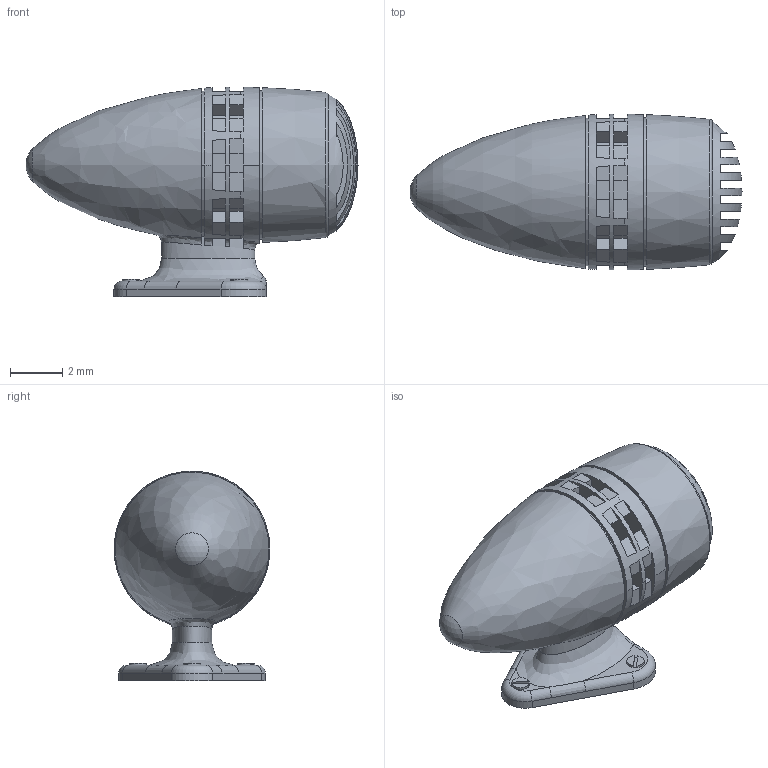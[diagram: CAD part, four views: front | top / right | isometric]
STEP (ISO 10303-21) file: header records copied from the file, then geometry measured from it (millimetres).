
FILE_DESCRIPTION(/* description */ ('','CAx-IF Rec.Pracs.---Representation and Presentation of Product Manufacturing Information (PMI)---4.0---2014-10-13'),/* implementation_level */ '2;1');
FILE_NAME(/* name */ 'Higgins 20th Sirenco type 93 v1.step',/* time_stamp */ '2025-02-16T13:30:43+11:00',/* author */ (''),/* organization */ (''),/* preprocessor_version */ 'ST-DEVELOPER v20',/* originating_system */ 'Autodesk Translation Framework v13.20.0.188',/* authorisation */ '');
FILE_SCHEMA (('AP242_MANAGED_MODEL_BASED_3D_ENGINEERING_MIM_LF { 1 0 10303 442 1 1 4 }'));
Length unit declared in the file: millimetre
Products named in the file (1): Higgins Sirenco type 93
Bounding box: 12.69 x 5.96 x 8.02 mm (x, y, z)
Volume: 258.2 mm3; surface area: 335.3 mm2
Topology: 1 solids, 3 shells, 211 faces, 619 edges, 427 vertices
Faces by surface type: plane 172, bspline 23, cylinder 12, torus 3, sphere 1
Full cylindrical faces by diameter (mm): 0.667 x3
Entity records: 9253 total; most frequent: CARTESIAN_POINT 4037, ORIENTED_EDGE 1236, DIRECTION 842, EDGE_CURVE 618, VERTEX_POINT 427, LINE 304, VECTOR 304, AXIS2_PLACEMENT_3D 269
